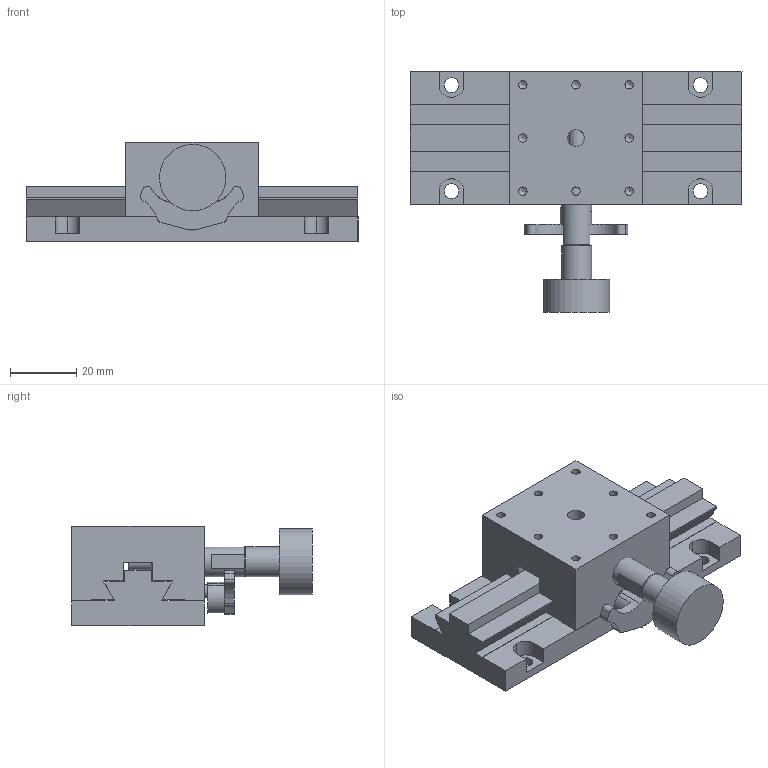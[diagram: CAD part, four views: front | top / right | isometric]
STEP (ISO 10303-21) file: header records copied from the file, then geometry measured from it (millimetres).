
FILE_DESCRIPTION( ( 'STEP AP203' ), '1' );
FILE_NAME( 'C:/3D-Trans/3D_BDLXR-4060+080811.step', '2008-08-11T08:55:13', ( ' ' ), ( ' ' ), 'XStep 1.0', ' ', ' ' );
FILE_SCHEMA( ( 'CONFIG_CONTROL_DESIGN' ) );
Length unit declared in the file: millimetre
Products named in the file (3): 1; 2; 3
Bounding box: 100 x 72.5 x 30 mm (x, y, z)
Volume: 76050.1 mm3; surface area: 25169.8 mm2
Topology: 3 solids, 3 shells, 140 faces, 370 edges, 244 vertices
Faces by surface type: plane 73, cylinder 59, cone 8
Full cylindrical faces by diameter (mm): 2.5 x16, 4 x1, 4.5 x6, 4.7 x1, 5 x2, 7.2 x2, 8.2 x1, 9 x2, 20 x1
Entity records: 4238 total; most frequent: CARTESIAN_POINT 794, DIRECTION 700, ORIENTED_EDGE 616, EDGE_CURVE 308, AXIS2_PLACEMENT_3D 256, VERTEX_POINT 232, EDGE_LOOP 201, LINE 188
